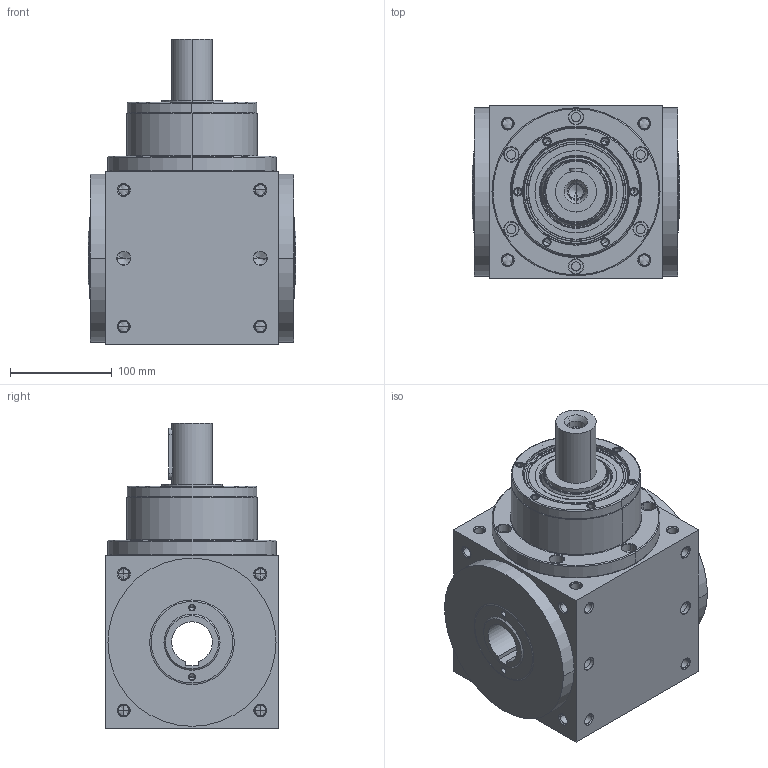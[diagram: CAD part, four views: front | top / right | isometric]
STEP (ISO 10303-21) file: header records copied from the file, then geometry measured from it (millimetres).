
FILE_DESCRIPTION((''),'2;1');
FILE_NAME('AT170H-1_ASM','2009-02-03T',('d00080'),(''),'PRO/ENGINEER BY PARAMETRIC TECHNOLOGY CORPORATION, 2006170','PRO/ENGINEER BY PARAMETRIC TECHNOLOGY CORPORATION, 2006170','');
FILE_SCHEMA(('CONFIG_CONTROL_DESIGN'));
Length unit declared in the file: millimetre
Products named in the file (6): AT170H-1; P1801700001; 22400071007; P1208700001; P0904701001; AT170H-1_ASM
Assembly tree (5 placements, depth 2):
  AT170H-1_ASM
    AT170H-1
    P1801700001
    22400071007
    P1208700001
    P0904701001
Bounding box: 204 x 170 x 300 mm (x, y, z)
Volume: 5921587.1 mm3; surface area: 408012.3 mm2
Topology: 6 solids, 38 shells, 629 faces, 1545 edges, 912 vertices
Faces by surface type: cylinder 271, cone 238, plane 80, torus 40
Entity records: 19016 total; most frequent: CARTESIAN_POINT 4117, DIRECTION 3355, ORIENTED_EDGE 2812, EDGE_CURVE 1469, AXIS2_PLACEMENT_3D 1406, VERTEX_POINT 912, CIRCLE 758, EDGE_LOOP 746
